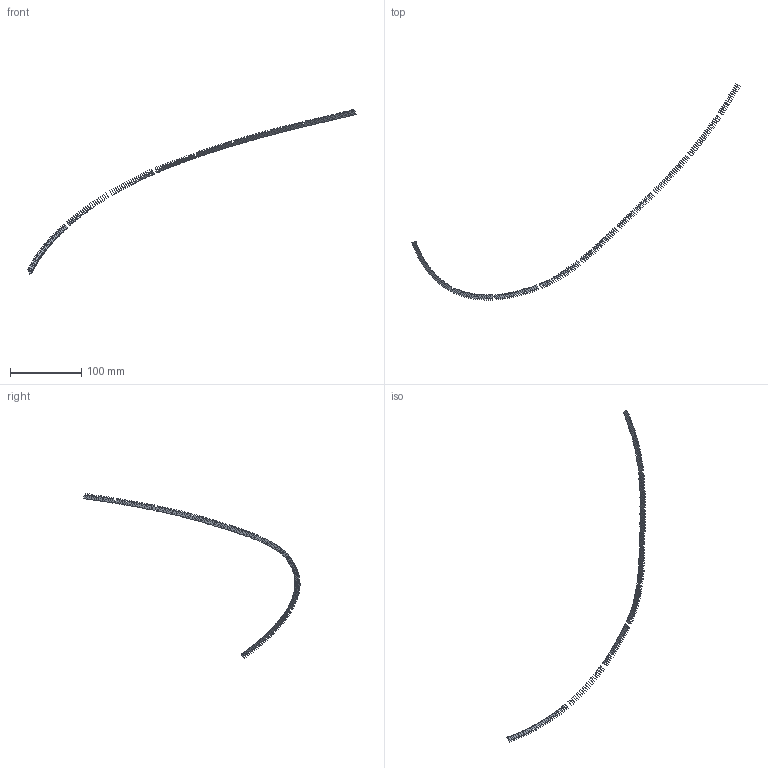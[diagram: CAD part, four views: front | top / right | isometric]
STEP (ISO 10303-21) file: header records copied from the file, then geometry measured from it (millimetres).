
FILE_DESCRIPTION(('FreeCAD Model'),'2;1');
FILE_NAME('Open CASCADE Shape Model','2022-05-22T07:50:32',('FreeCAD'),( 'FreeCAD'),'Open CASCADE STEP processor 7.5','FreeCAD','Unknown');
FILE_SCHEMA(('AUTOMOTIVE_DESIGN { 1 0 10303 214 1 1 1 1 }'));
Length unit declared in the file: millimetre
Products named in the file (214): Open CASCADE STEP translator 7.5 61; Open CASCADE STEP translator 7.5 61.1; Open CASCADE STEP translator 7.5 61.2; Open CASCADE STEP translator 7.5 61.3; Open CASCADE STEP translator 7.5 61.4; Open CASCADE STEP translator 7.5 61.5; Open CASCADE STEP translator 7.5 61.6; Open CASCADE STEP translator 7.5 61.7; Open CASCADE STEP translator 7.5 61.8; Open CASCADE STEP translator 7.5 61.9; Open CASCADE STEP translator 7.5 61.10; Open CASCADE STEP translator 7.5 61.11; Open CASCADE STEP translator 7.5 61.12; Open CASCADE STEP translator 7.5 61.13; Open CASCADE STEP translator 7.5 61.14; Open CASCADE STEP translator 7.5 61.15; Open CASCADE STEP translator 7.5 61.16; Open CASCADE STEP translator 7.5 61.17; Open CASCADE STEP translator 7.5 61.18; Open CASCADE STEP translator 7.5 61.19; Open CASCADE STEP translator 7.5 61.20; Open CASCADE STEP translator 7.5 61.21; Open CASCADE STEP translator 7.5 61.22; Open CASCADE STEP translator 7.5 61.23; Open CASCADE STEP translator 7.5 61.24; Open CASCADE STEP translator 7.5 61.25; Open CASCADE STEP translator 7.5 61.26; Open CASCADE STEP translator 7.5 61.27; Open CASCADE STEP translator 7.5 61.28; Open CASCADE STEP translator 7.5 61.29; Open CASCADE STEP translator 7.5 61.30; Open CASCADE STEP translator 7.5 61.31; Open CASCADE STEP translator 7.5 61.32; Open CASCADE STEP translator 7.5 61.33; Open CASCADE STEP translator 7.5 61.34; Open CASCADE STEP translator 7.5 61.35; Open CASCADE STEP translator 7.5 61.36; Open CASCADE STEP translator 7.5 61.37; Open CASCADE STEP translator 7.5 61.38; Open CASCADE STEP translator 7.5 61.39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
Assembly tree (213 placements, depth 2):
  Open CASCADE STEP translator 7.5 61
    Open CASCADE STEP translator 7.5 61.1
    Open CASCADE STEP translator 7.5 61.2
    Open CASCADE STEP translator 7.5 61.3
    Open CASCADE STEP translator 7.5 61.4
    Open CASCADE STEP translator 7.5 61.5
    Open CASCADE STEP translator 7.5 61.6
    Open CASCADE STEP translator 7.5 61.7
    Open CASCADE STEP translator 7.5 61.8
    Open CASCADE STEP translator 7.5 61.9
    Open CASCADE STEP translator 7.5 61.10
    Open CASCADE STEP translator 7.5 61.11
    Open CASCADE STEP translator 7.5 61.12
    Open CASCADE STEP translator 7.5 61.13
    Open CASCADE STEP translator 7.5 61.14
    Open CASCADE STEP translator 7.5 61.15
    Open CASCADE STEP translator 7.5 61.16
    Open CASCADE STEP translator 7.5 61.17
    Open CASCADE STEP translator 7.5 61.18
    Open CASCADE STEP translator 7.5 61.19
    Open CASCADE STEP translator 7.5 61.20
    Open CASCADE STEP translator 7.5 61.21
    Open CASCADE STEP translator 7.5 61.22
    Open CASCADE STEP translator 7.5 61.23
    Open CASCADE STEP translator 7.5 61.24
    Open CASCADE STEP translator 7.5 61.25
    Open CASCADE STEP translator 7.5 61.26
    Open CASCADE STEP translator 7.5 61.27
    Open CASCADE STEP translator 7.5 61.28
    Open CASCADE STEP translator 7.5 61.29
    Open CASCADE STEP translator 7.5 61.30
    Open CASCADE STEP translator 7.5 61.31
    Open CASCADE STEP translator 7.5 61.32
    Open CASCADE STEP translator 7.5 61.33
    Open CASCADE STEP translator 7.5 61.34
    Open CASCADE STEP translator 7.5 61.35
    Open CASCADE STEP translator 7.5 61.36
    Open CASCADE STEP translator 7.5 61.37
    Open CASCADE STEP translator 7.5 61.38
    Open CASCADE STEP translator 7.5 61.39
    Open CASCADE STEP translator 7.5 61.40
    Open CASCADE STEP translator 7.5 61.41
    Open CASCADE STEP translator 7.5 61.42
    Open CASCADE STEP translator 7.5 61.43
    Open CASCADE STEP translator 7.5 61.44
    Open CASCADE STEP translator 7.5 61.45
    Open CASCADE STEP translator 7.5 61.46
    Open CASCADE STEP translator 7.5 61.47
    Open CASCADE STEP translator 7.5 61.48
    Open CASCADE STEP translator 7.5 61.49
    Open CASCADE STEP translator 7.5 61.50
    Open CASCADE STEP translator 7.5 61.51
    Open CASCADE STEP translator 7.5 61.52
    Open CASCADE STEP translator 7.5 61.53
    Open CASCADE STEP translator 7.5 61.54
    Open CASCADE STEP translator 7.5 61.55
    Open CASCADE STEP translator 7.5 61.56
    Open CASCADE STEP translator 7.5 61.57
    Open CASCADE STEP translator 7.5 61.58
    Open CASCADE STEP translator 7.5 61.59
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Bounding box: 461.61 x 303.26 x 231.44 mm (x, y, z)
Surface area: 6745.2 mm2 (no closed solid volume)
Topology: 0 solids, 213 shells, 213 faces, 2067 edges, 2067 vertices
Faces by surface type: bspline 213
Entity records: 32851 total; most frequent: CARTESIAN_POINT 11401, B_SPLINE_CURVE_WITH_KNOTS 4134, ORIENTED_EDGE 2067, EDGE_CURVE 2067, VERTEX_POINT 2067, SURFACE_CURVE 2067, PCURVE 2067, DEFINITIONAL_REPRESENTATION 2067
